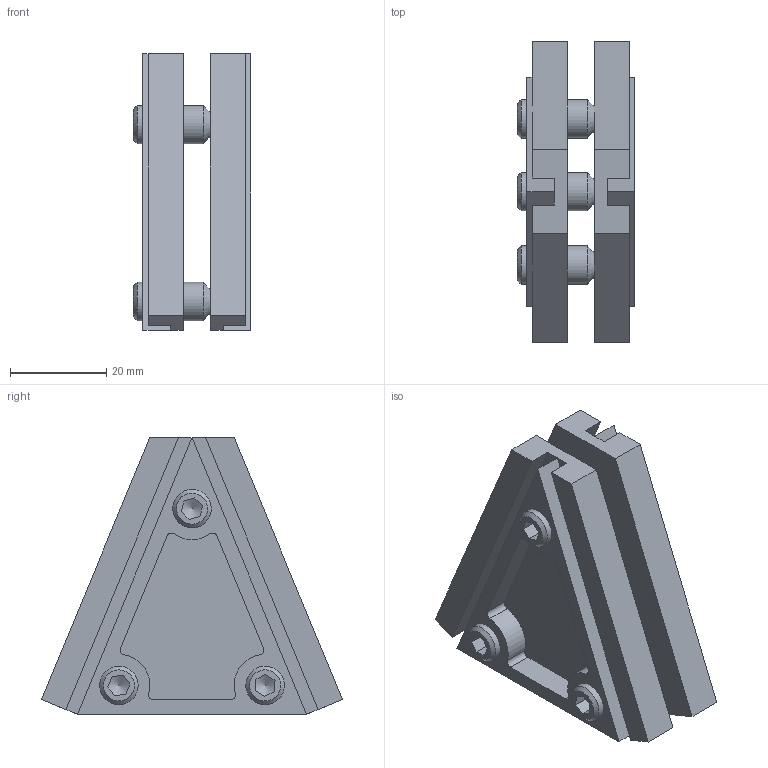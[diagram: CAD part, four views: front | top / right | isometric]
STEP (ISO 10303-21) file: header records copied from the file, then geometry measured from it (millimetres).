
FILE_DESCRIPTION(/* description */ ('ANGLE BRACKET 45° FOR SUPPORT BEAM 40x40, 40x80 AND 60x60 '),/* implementation_level */ '2;1');
FILE_NAME(/* name */ '\\carryline.intra\privat\users\mathias\Desktop\Tillfälliga filer\100-3010.stp',/* time_stamp */ '2018-11-20T10:48:19+01:00',/* author */ ('mikael'),/* organization */ (''),/* preprocessor_version */ 'ST-DEVELOPER v17',/* originating_system */ 'Autodesk Inventor 2018',/* authorisation */ '');
FILE_SCHEMA (('AUTOMOTIVE_DESIGN { 1 0 10303 214 3 1 1 }'));
Length unit declared in the file: millimetre
Products named in the file (4): 100-3010; 100-3025-02; 100-3025-03; DIN 916 - M8  x  16
Assembly tree (5 placements, depth 2):
  100-3010
    100-3025-02
    100-3025-03
    DIN 916 - M8  x  16  x3
Bounding box: 24.4 x 62.6 x 57.5 mm (x, y, z)
Volume: 28532.1 mm3; surface area: 17908.9 mm2
Topology: 5 solids, 5 shells, 121 faces, 286 edges, 177 vertices
Faces by surface type: plane 82, cylinder 24, cone 15
Full cylindrical faces by diameter (mm): 6.647 x3, 8 x3
Entity records: 2664 total; most frequent: DIRECTION 459, CARTESIAN_POINT 433, ORIENTED_EDGE 412, EDGE_CURVE 206, AXIS2_PLACEMENT_3D 159, LINE 141, VECTOR 141, VERTEX_POINT 133
